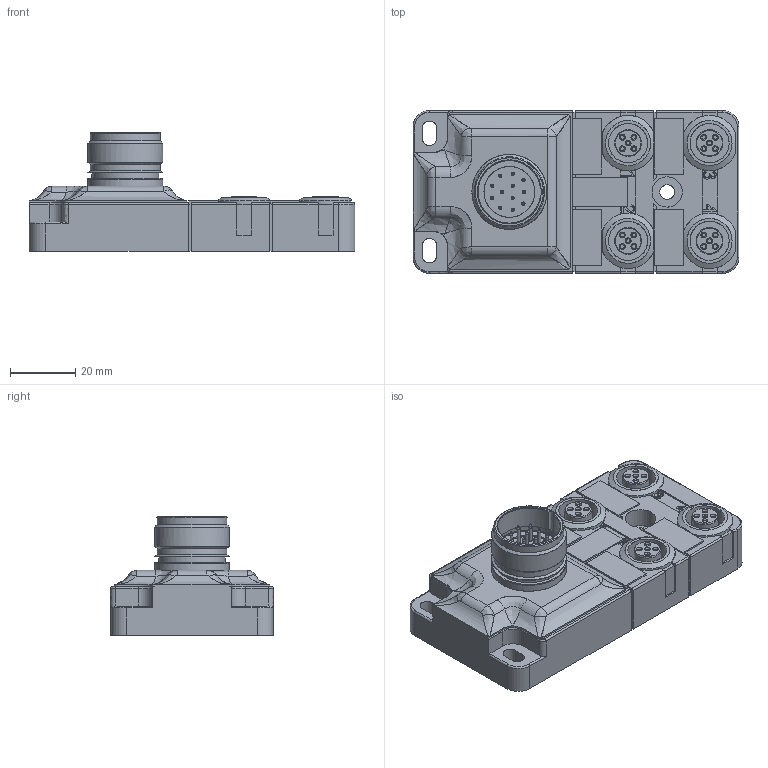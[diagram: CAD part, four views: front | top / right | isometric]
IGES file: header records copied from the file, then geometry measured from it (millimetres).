
Global section: file name: E:\lem\3DCAD_MD_7XXP_11_42IO5_13.igs; native system: NX V8.5; preprocessor: SIEMENS PLM Software NX 8.5; date: 20161104.105512; units: millimetre
Bounding box: 100 x 50 x 36.5 mm (x, y, z)
Surface area: 20389.5 mm2 (no closed solid volume)
Topology: 0 solids, 0 shells, 413 faces, 2823 edges, 2791 vertices
Faces by surface type: bspline 413
